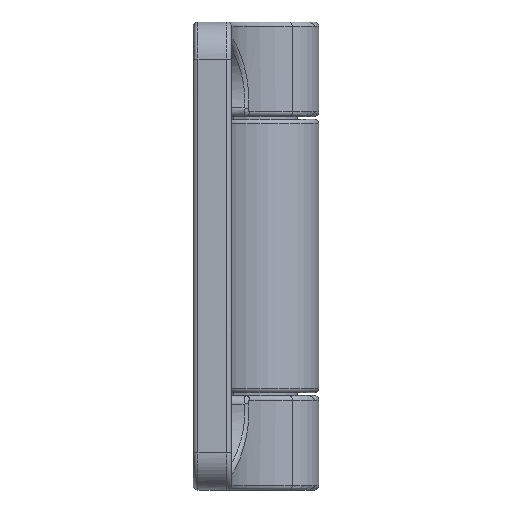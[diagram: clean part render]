
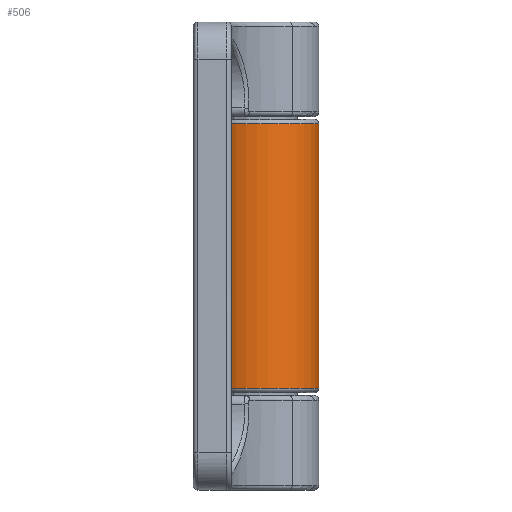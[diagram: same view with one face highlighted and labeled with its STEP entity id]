
A CAD part, front view. The second image highlights one B-rep face of the part: STEP entity #506.
In plain terms, the highlighted cylindrical face has radius 6.7 mm (diameter 13.4 mm), a partial arc.
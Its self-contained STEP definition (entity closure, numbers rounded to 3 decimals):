
#226 = DIRECTION ( 'NONE',  ( 0., 0., -1. ) ) ;
#411 = VERTEX_POINT ( 'NONE', #8357 ) ;
#506 = ADVANCED_FACE ( 'NONE', ( #855 ), #6389, .T. ) ;
#855 = FACE_OUTER_BOUND ( 'NONE', #5654, .T. ) ;
#1351 = CARTESIAN_POINT ( 'NONE',  ( 147.08, -6.881, -39.5 ) ) ;
#1365 = AXIS2_PLACEMENT_3D ( 'NONE', #1620, #7859, #8496 ) ;
#1519 = EDGE_CURVE ( 'NONE', #5302, #7696, #2215, .T. ) ;
#1620 = CARTESIAN_POINT ( 'NONE',  ( 153.78, -6.881, -40. ) ) ;
#1631 = ORIENTED_EDGE ( 'NONE', *, *, #2637, .T. ) ;
#1955 = LINE ( 'NONE', #8246, #3864 ) ;
#2215 = LINE ( 'NONE', #4217, #7188 ) ;
#2637 = EDGE_CURVE ( 'NONE', #411, #7968, #1955, .T. ) ;
#2749 = EDGE_CURVE ( 'NONE', #5302, #7968, #4164, .T. ) ;
#2769 = CARTESIAN_POINT ( 'NONE',  ( 160.48, -6.881, -39.5 ) ) ;
#2776 = CARTESIAN_POINT ( 'NONE',  ( 153.78, -6.881, -11. ) ) ;
#3486 = DIRECTION ( 'NONE',  ( -1., 0., 0. ) ) ;
#3632 = DIRECTION ( 'NONE',  ( 0., 0., 1. ) ) ;
#3819 = CIRCLE ( 'NONE', #8297, 6.7 ) ;
#3864 = VECTOR ( 'NONE', #4135, 1000. ) ;
#4135 = DIRECTION ( 'NONE',  ( 0., 0., -1. ) ) ;
#4164 = CIRCLE ( 'NONE', #4736, 6.7 ) ;
#4217 = CARTESIAN_POINT ( 'NONE',  ( 160.48, -6.881, -40. ) ) ;
#4272 = CARTESIAN_POINT ( 'NONE',  ( 153.78, -6.881, -39.5 ) ) ;
#4685 = ORIENTED_EDGE ( 'NONE', *, *, #7150, .F. ) ;
#4736 = AXIS2_PLACEMENT_3D ( 'NONE', #4272, #226, #8340 ) ;
#5302 = VERTEX_POINT ( 'NONE', #2769 ) ;
#5654 = EDGE_LOOP ( 'NONE', ( #7173, #8524, #4685, #1631 ) ) ;
#6389 = CYLINDRICAL_SURFACE ( 'NONE', #1365, 6.7 ) ;
#7010 = DIRECTION ( 'NONE',  ( 0., 0., 1. ) ) ;
#7150 = EDGE_CURVE ( 'NONE', #411, #7696, #3819, .T. ) ;
#7173 = ORIENTED_EDGE ( 'NONE', *, *, #2749, .F. ) ;
#7188 = VECTOR ( 'NONE', #3632, 1000. ) ;
#7628 = CARTESIAN_POINT ( 'NONE',  ( 160.48, -6.881, -11. ) ) ;
#7696 = VERTEX_POINT ( 'NONE', #7628 ) ;
#7859 = DIRECTION ( 'NONE',  ( 0., 0., 1. ) ) ;
#7968 = VERTEX_POINT ( 'NONE', #1351 ) ;
#8246 = CARTESIAN_POINT ( 'NONE',  ( 147.08, -6.881, -11. ) ) ;
#8297 = AXIS2_PLACEMENT_3D ( 'NONE', #2776, #7010, #3486 ) ;
#8340 = DIRECTION ( 'NONE',  ( 1., 0., 0. ) ) ;
#8357 = CARTESIAN_POINT ( 'NONE',  ( 147.08, -6.881, -11. ) ) ;
#8496 = DIRECTION ( 'NONE',  ( 1., 0., 0. ) ) ;
#8524 = ORIENTED_EDGE ( 'NONE', *, *, #1519, .T. ) ;
